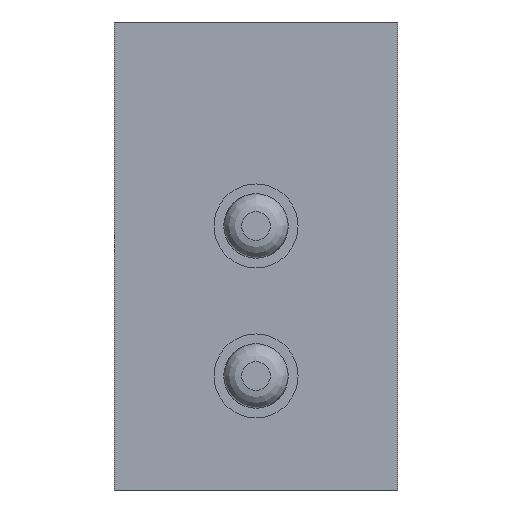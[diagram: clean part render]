
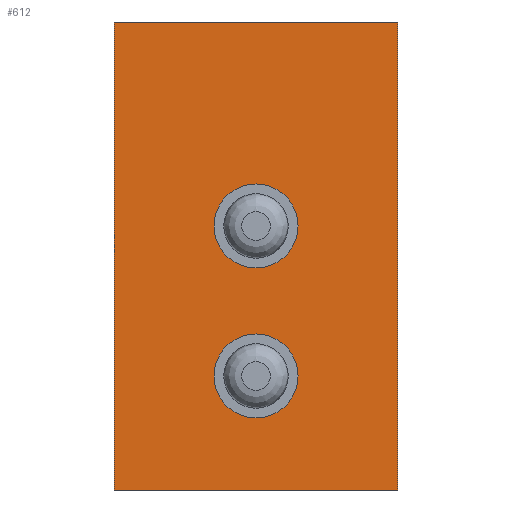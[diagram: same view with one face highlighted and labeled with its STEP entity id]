
A CAD part, front view. The second image highlights one B-rep face of the part: STEP entity #612.
In plain terms, the highlighted planar face has unit normal (0, -1, 0).
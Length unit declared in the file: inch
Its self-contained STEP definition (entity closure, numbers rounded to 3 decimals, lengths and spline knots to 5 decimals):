
#72=FACE_OUTER_BOUND('',#116,.T.);
#116=EDGE_LOOP('',(#429,#430,#431,#432));
#158=LINE('',#937,#215);
#162=LINE('',#945,#219);
#165=LINE('',#951,#222);
#168=LINE('',#956,#225);
#215=VECTOR('',#742,0.3937);
#219=VECTOR('',#748,0.3937);
#222=VECTOR('',#753,0.3937);
#225=VECTOR('',#758,0.3937);
#272=VERTEX_POINT('',#935);
#273=VERTEX_POINT('',#936);
#276=VERTEX_POINT('',#944);
#278=VERTEX_POINT('',#950);
#326=EDGE_CURVE('',#272,#273,#158,.T.);
#330=EDGE_CURVE('',#273,#276,#162,.T.);
#333=EDGE_CURVE('',#276,#278,#165,.T.);
#336=EDGE_CURVE('',#278,#272,#168,.T.);
#429=ORIENTED_EDGE('',*,*,#336,.T.);
#430=ORIENTED_EDGE('',*,*,#326,.T.);
#431=ORIENTED_EDGE('',*,*,#330,.T.);
#432=ORIENTED_EDGE('',*,*,#333,.T.);
#580=PLANE('',#675);
#612=ADVANCED_FACE('',(#72),#580,.F.);
#675=AXIS2_PLACEMENT_3D('',#959,#762,#763);
#742=DIRECTION('',(0.,0.,-1.));
#748=DIRECTION('',(1.,0.,0.));
#753=DIRECTION('',(0.,0.,1.));
#758=DIRECTION('',(-1.,0.,0.));
#762=DIRECTION('center_axis',(0.,1.,0.));
#763=DIRECTION('ref_axis',(1.,0.,0.));
#935=CARTESIAN_POINT('',(-0.11811,0.,0.195));
#936=CARTESIAN_POINT('',(-0.11811,0.,-0.195));
#937=CARTESIAN_POINT('',(-0.11811,0.,0.195));
#944=CARTESIAN_POINT('',(0.11811,0.,-0.195));
#945=CARTESIAN_POINT('',(-0.11811,0.,-0.195));
#950=CARTESIAN_POINT('',(0.11811,0.,0.195));
#951=CARTESIAN_POINT('',(0.11811,0.,-0.195));
#956=CARTESIAN_POINT('',(0.11811,0.,0.195));
#959=CARTESIAN_POINT('Origin',(0.,0.,0.));
